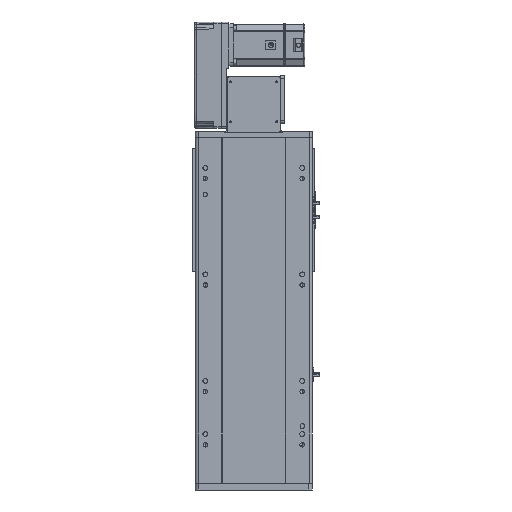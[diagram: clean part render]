
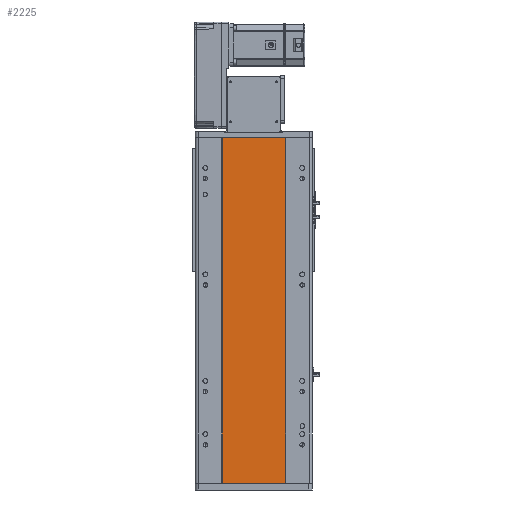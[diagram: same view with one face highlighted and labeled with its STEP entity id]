
A CAD part, front view. The second image highlights one B-rep face of the part: STEP entity #2225.
In plain terms, the highlighted planar face has unit normal (0, -1, 0).
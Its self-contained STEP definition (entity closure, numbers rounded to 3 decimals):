
#1646 = ORIENTED_EDGE ( 'NONE', *, *, #31443, .T. ) ;
#2225 = ADVANCED_FACE ( 'NONE', ( #45404 ), #13538, .F. ) ;
#3387 = VECTOR ( 'NONE', #4691, 1000. ) ;
#4205 = CARTESIAN_POINT ( 'NONE',  ( -59., 1., -324.5 ) ) ;
#4691 = DIRECTION ( 'NONE',  ( 1., 0., 0. ) ) ;
#5033 = VERTEX_POINT ( 'NONE', #30185 ) ;
#8220 = ORIENTED_EDGE ( 'NONE', *, *, #40783, .F. ) ;
#10609 = VECTOR ( 'NONE', #17013, 1000. ) ;
#12865 = CARTESIAN_POINT ( 'NONE',  ( -59., 1., 324.5 ) ) ;
#13538 = PLANE ( 'NONE',  #40170 ) ;
#15075 = CARTESIAN_POINT ( 'NONE',  ( 59., 1., -324.5 ) ) ;
#17013 = DIRECTION ( 'NONE',  ( 0., 0., -1. ) ) ;
#21068 = LINE ( 'NONE', #40524, #10609 ) ;
#21883 = VECTOR ( 'NONE', #50800, 1000. ) ;
#22537 = EDGE_LOOP ( 'NONE', ( #1646, #35172, #8220, #34278 ) ) ;
#23137 = VERTEX_POINT ( 'NONE', #47620 ) ;
#23728 = LINE ( 'NONE', #47526, #21883 ) ;
#24269 = LINE ( 'NONE', #4205, #3387 ) ;
#24665 = CARTESIAN_POINT ( 'NONE',  ( 59., 1., 324.5 ) ) ;
#25267 = DIRECTION ( 'NONE',  ( 0., 0., -1. ) ) ;
#27649 = VERTEX_POINT ( 'NONE', #15075 ) ;
#27947 = VECTOR ( 'NONE', #25267, 1000. ) ;
#30185 = CARTESIAN_POINT ( 'NONE',  ( -59., 1., -324.5 ) ) ;
#31443 = EDGE_CURVE ( 'NONE', #5033, #27649, #24269, .T. ) ;
#33005 = CARTESIAN_POINT ( 'NONE',  ( -59., 1., 324.5 ) ) ;
#34278 = ORIENTED_EDGE ( 'NONE', *, *, #41900, .T. ) ;
#34641 = LINE ( 'NONE', #33005, #27947 ) ;
#35172 = ORIENTED_EDGE ( 'NONE', *, *, #36455, .F. ) ;
#36455 = EDGE_CURVE ( 'NONE', #40328, #27649, #21068, .T. ) ;
#40170 = AXIS2_PLACEMENT_3D ( 'NONE', #12865, #44793, #48270 ) ;
#40328 = VERTEX_POINT ( 'NONE', #24665 ) ;
#40524 = CARTESIAN_POINT ( 'NONE',  ( 59., 1., 324.5 ) ) ;
#40783 = EDGE_CURVE ( 'NONE', #23137, #40328, #23728, .T. ) ;
#41900 = EDGE_CURVE ( 'NONE', #23137, #5033, #34641, .T. ) ;
#44793 = DIRECTION ( 'NONE',  ( 0., 1., 0. ) ) ;
#45404 = FACE_OUTER_BOUND ( 'NONE', #22537, .T. ) ;
#47526 = CARTESIAN_POINT ( 'NONE',  ( -59., 1., 324.5 ) ) ;
#47620 = CARTESIAN_POINT ( 'NONE',  ( -59., 1., 324.5 ) ) ;
#48270 = DIRECTION ( 'NONE',  ( -1., 0., 0. ) ) ;
#50800 = DIRECTION ( 'NONE',  ( 1., 0., 0. ) ) ;
